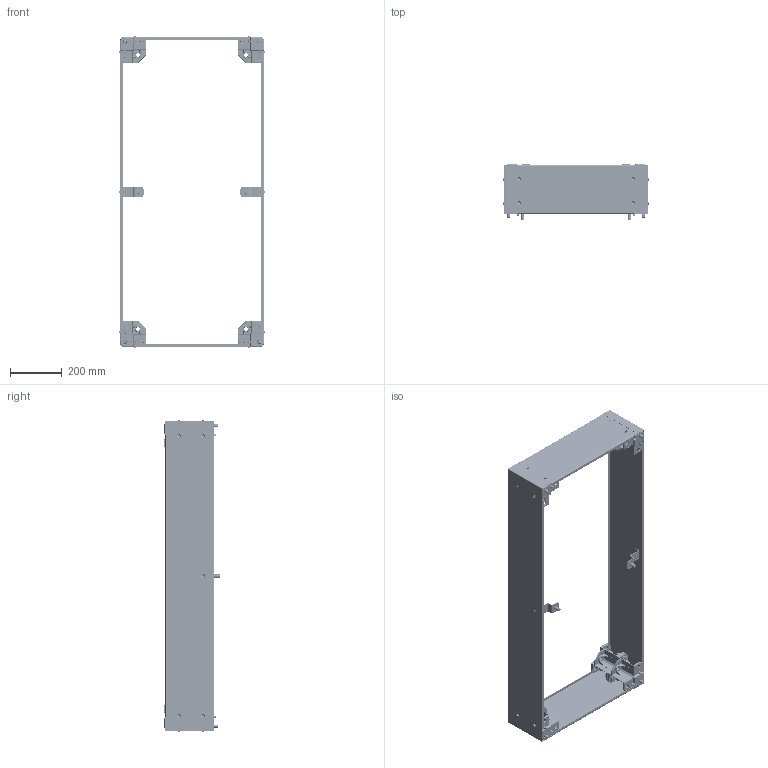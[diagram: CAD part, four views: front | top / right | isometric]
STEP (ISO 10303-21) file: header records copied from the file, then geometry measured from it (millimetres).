
FILE_DESCRIPTION (( 'STEP AP203' ), '1' );
FILE_NAME ('ppb2126.STEP', '2010-08-31T13:39:07', ( 'Hoffman User' ), ( 'Hoffman Enclosures' ), 'SwSTEP 2.0', 'SolidWorks 2009', '' );
FILE_SCHEMA (( 'CONFIG_CONTROL_DESIGN' ));
Length unit declared in the file: inch
Products named in the file (11): 87540699_ Hex cap screw, M12 x 1.75 x 35; 99416882_Hex Nut  M12; 87547883_87547883; ppb2126; 87551444; 60127131_60127131; 87551432; 87552309_FLEXIBLE; 52312101_DIN 6797-A13; 99414993_99414993; 87545338
Assembly tree (67 placements, depth 3):
  ppb2126
    60127131_60127131  x8
    87551444  x2
    87551432  x2
    87552309_FLEXIBLE
      52312101_DIN 6797-A13  x12
      87540699_ Hex cap screw, M12 x 1.75 x 35  x12
      87547883_87547883  x18
      99416882_Hex Nut  M12  x8
      99414993_99414993  x2
      87545338  x2
Bounding box: 564.13 x 215.09 x 1204.13 mm (x, y, z)
Volume: 2460308.9 mm3; surface area: 2075447.5 mm2
Topology: 66 solids, 66 shells, 8484 faces, 20420 edges, 11950 vertices
Faces by surface type: cylinder 2492, plane 2342, cone 2026, bspline 1040, torus 328, sphere 256
Entity records: 47588 total; most frequent: CARTESIAN_POINT 20491, ORIENTED_EDGE 5156, DIRECTION 5089, EDGE_CURVE 2578, AXIS2_PLACEMENT_3D 1983, VERTEX_POINT 1535, EDGE_LOOP 1175, VECTOR 1123
